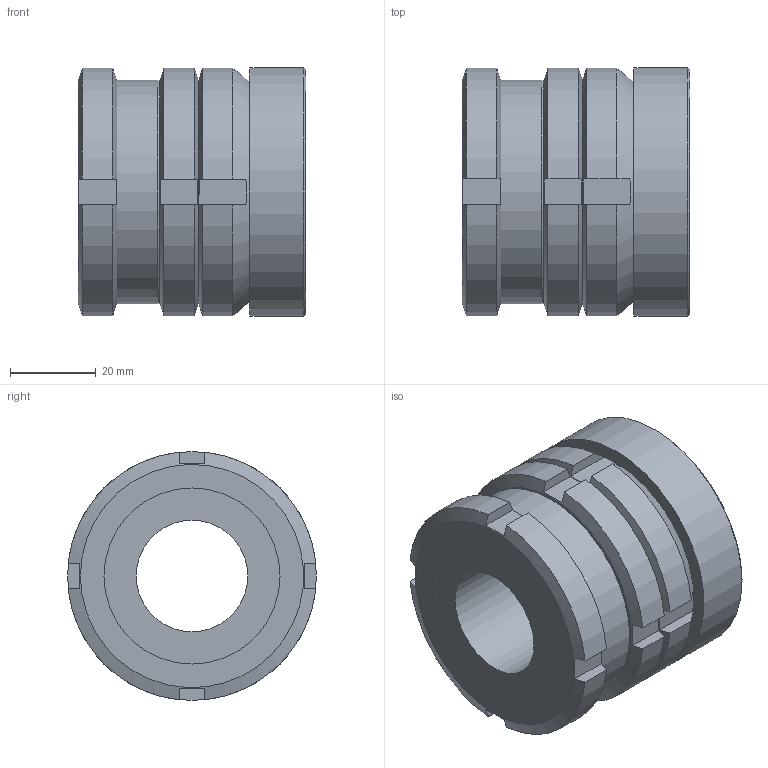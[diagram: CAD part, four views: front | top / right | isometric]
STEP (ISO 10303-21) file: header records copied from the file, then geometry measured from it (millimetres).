
FILE_DESCRIPTION( ( 'STEP AP203' ), '1' );
FILE_NAME( 'C:/Temp/Ganter_Step_05_03_2020/data/3_2/gn350_5/gn350_5_ni/Stainless Steel-Levelling set GN 350.5-58-26-53-NI (0-0).stp', '2020-03-13T05:28:54', ( 'License CC BY-ND 4.0' ), ( 'CADENAS' ), ' ', 'PARTsolutions', ' ' );
FILE_SCHEMA( ( 'CONFIG_CONTROL_DESIGN' ) );
Length unit declared in the file: millimetre
Products named in the file (5): Stainless Steel-Levelling set GN 350.5-58-26-53-NI (0-0); _Levelling set GN 350.5-58-26-53-ST-G; _Levelling set GN 350.5-58-26-53-ST-K; _Levelling set GN 350.5-58-26-53-ST-P(0); _Levelling set GN 350.5-58-26-53-ST-KM
Assembly tree (4 placements, depth 2):
  Stainless Steel-Levelling set GN 350.5-58-26-53-NI (0-0)
    _Levelling set GN 350.5-58-26-53-ST-G
    _Levelling set GN 350.5-58-26-53-ST-K
    _Levelling set GN 350.5-58-26-53-ST-P(0)
    _Levelling set GN 350.5-58-26-53-ST-KM
Bounding box: 53 x 58 x 58 mm (x, y, z)
Volume: 101168.5 mm3; surface area: 35507.3 mm2
Topology: 4 solids, 4 shells, 85 faces, 211 edges, 140 vertices
Faces by surface type: plane 50, cylinder 24, cone 9, sphere 2
Full cylindrical faces by diameter (mm): 26 x1, 31.5 x1, 33.485 x1, 34.5 x1, 38.376 x1, 38.917 x1, 39 x1, 40 x1, 41 x2, 52 x1, 58 x1
Entity records: 2696 total; most frequent: CARTESIAN_POINT 698, DIRECTION 368, ORIENTED_EDGE 356, EDGE_CURVE 178, AXIS2_PLACEMENT_3D 160, VERTEX_POINT 130, EDGE_LOOP 122, FACE_OUTER_BOUND 99
